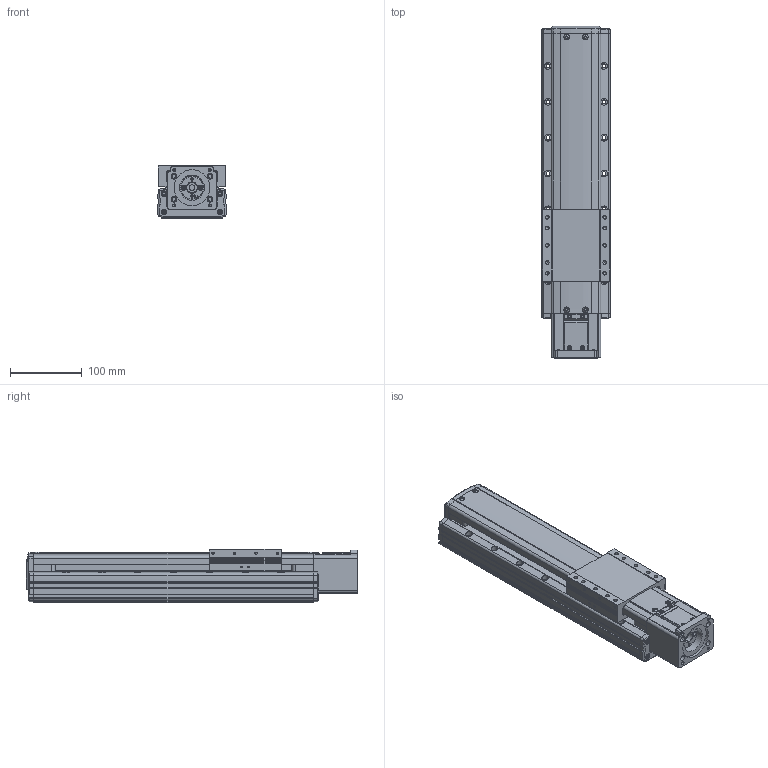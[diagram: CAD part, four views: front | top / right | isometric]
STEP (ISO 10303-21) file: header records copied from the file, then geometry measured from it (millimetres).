
FILE_DESCRIPTION(('STEP AP214'),'1');
FILE_NAME('Z:/Web/3D/PSA95/STP/PSA95-200 (3D)/PSA95ㅁㅁ-200S.stp','2014-07-02T23:42:59',(' '),(' '),'Spatial InterOp 3D',' ',' ');
FILE_SCHEMA(('automotive_design'));
Length unit declared in the file: millimetre
Products named in the file (35): BASE; RRCV; 스크루 : Round - M4.0 x 10.0; 너트 : Square - M10.0 x 220.7419; RR1500; FRCV-090; 스크루 : Round - M4.0 x 6.0; SLBL-PA90; SSFX-SAN65; CPLCV-SAN65; 스크루 : Round - M3.0 x 6.0; MTHZ-PA70/90-S60A-3; 스크루 : Socket - M4.0 x 20.0; NONE
Bounding box: 95 x 462.5 x 74 mm (x, y, z)
Volume: 2416593.7 mm3; surface area: 318783 mm2
Topology: 35 solids, 69 shells, 3007 faces, 7704 edges, 4858 vertices
Faces by surface type: plane 1454, cylinder 946, cone 371, torus 158, sphere 46, bspline 32
Entity records: 118556 total; most frequent: CARTESIAN_POINT 19581, DIRECTION 16128, ORIENTED_EDGE 15144, EDGE_CURVE 7572, AXIS2_PLACEMENT_3D 5767, VERTEX_POINT 4858, LINE 4594, VECTOR 4594
